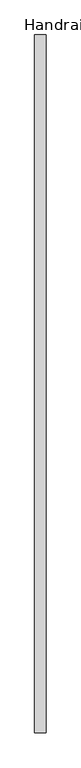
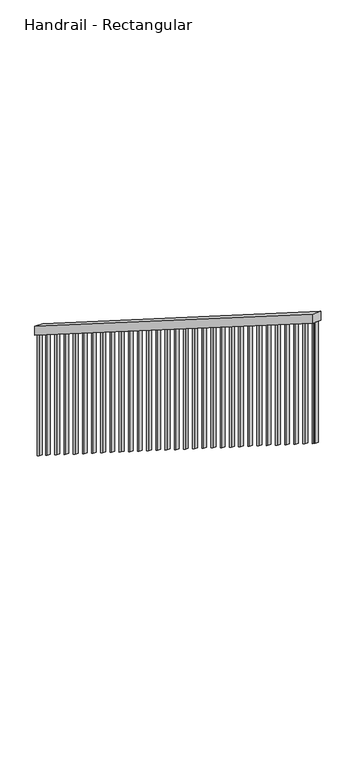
"""IFC4 building model written with IfcOpenShell, lengths in millimetres: railing geometry, Handrail - Rectangular."""

from ifc_helpers import new_model, si_unit, frame, origin, place, context, project, spatial, polyline, outline, extrude, source, transform, mapped, element, save


def handrail_rectangular_d835db19(model_context):
    return source(origin(), model_context, "Body", "SweptSolid", [
        extrude(outline(polyline([(29625.2325698, 914.4), (29625.2325698, 854.2661363), (26551.8305304, 2801.0532331), (26551.8305304, 2861.1870968), (29625.2325698, 914.4)])), frame((-8661.4851755, 0.0, 0.0), z_axis=(1.0, 0.0, 0.0), x_axis=(0.0, 1.0, 0.0)), (0.0, 0.0, 1.0), 50.8),
        extrude(outline(polyline([(26586.7575698, 2778.9293189), (26586.7575698, 1962.4070186), (26567.7075698, 1974.4738808), (26567.7075698, 2790.9961811), (26586.7575698, 2778.9293189)])), frame((-8645.6101755, 0.0, 0.0), z_axis=(1.0, 0.0, 0.0), x_axis=(0.0, 1.0, 0.0)), (0.0, 0.0, 1.0), 19.05),
        extrude(outline(polyline([(26688.3575698, 2714.5727634), (26688.3575698, 1898.0504631), (26669.3075698, 1910.1173253), (26669.3075698, 2726.6396256), (26688.3575698, 2714.5727634)])), frame((-8645.6101755, 0.0, 0.0), z_axis=(1.0, 0.0, 0.0), x_axis=(0.0, 1.0, 0.0)), (0.0, 0.0, 1.0), 19.05),
        extrude(outline(polyline([(26789.9575698, 2650.2162079), (26789.9575698, 1833.6939076), (26770.9075698, 1845.7607697), (26770.9075698, 2662.28307), (26789.9575698, 2650.2162079)])), frame((-8645.6101755, 0.0, 0.0), z_axis=(1.0, 0.0, 0.0), x_axis=(0.0, 1.0, 0.0)), (0.0, 0.0, 1.0), 19.05),
        extrude(outline(polyline([(26891.5575698, 2585.8596523), (26891.5575698, 1769.337352), (26872.5075698, 1781.4042142), (26872.5075698, 2597.9265145), (26891.5575698, 2585.8596523)])), frame((-8645.6101755, 0.0, 0.0), z_axis=(1.0, 0.0, 0.0), x_axis=(0.0, 1.0, 0.0)), (0.0, 0.0, 1.0), 19.05),
        extrude(outline(polyline([(26993.1575698, 2521.5030968), (26993.1575698, 1704.9807965), (26974.1075698, 1717.0476587), (26974.1075698, 2533.569959), (26993.1575698, 2521.5030968)])), frame((-8645.6101755, 0.0, 0.0), z_axis=(1.0, 0.0, 0.0), x_axis=(0.0, 1.0, 0.0)), (0.0, 0.0, 1.0), 19.05),
        extrude(outline(polyline([(27094.7575698, 2457.1465413), (27094.7575698, 1640.624241), (27075.7075698, 1652.6911031), (27075.7075698, 2469.2134034), (27094.7575698, 2457.1465413)])), frame((-8645.6101755, 0.0, 0.0), z_axis=(1.0, 0.0, 0.0), x_axis=(0.0, 1.0, 0.0)), (0.0, 0.0, 1.0), 19.05),
        extrude(outline(polyline([(27196.3575698, 2392.7899857), (27196.3575698, 1576.2676854), (27177.3075698, 1588.3345476), (27177.3075698, 2404.8568479), (27196.3575698, 2392.7899857)])), frame((-8645.6101755, 0.0, 0.0), z_axis=(1.0, 0.0, 0.0), x_axis=(0.0, 1.0, 0.0)), (0.0, 0.0, 1.0), 19.05),
        extrude(outline(polyline([(27297.9575698, 2328.4334302), (27297.9575698, 1511.9111299), (27278.9075698, 1523.9779921), (27278.9075698, 2340.5002924), (27297.9575698, 2328.4334302)])), frame((-8645.6101755, 0.0, 0.0), z_axis=(1.0, 0.0, 0.0), x_axis=(0.0, 1.0, 0.0)), (0.0, 0.0, 1.0), 19.05),
        extrude(outline(polyline([(27399.5575698, 2264.0768746), (27399.5575698, 1447.5545743), (27380.5075698, 1459.6214365), (27380.5075698, 2276.1437368), (27399.5575698, 2264.0768746)])), frame((-8645.6101755, 0.0, 0.0), z_axis=(1.0, 0.0, 0.0), x_axis=(0.0, 1.0, 0.0)), (0.0, 0.0, 1.0), 19.05),
        extrude(outline(polyline([(27501.1575698, 2199.7203191), (27501.1575698, 1383.1980188), (27482.1075698, 1395.264881), (27482.1075698, 2211.7871813), (27501.1575698, 2199.7203191)])), frame((-8645.6101755, 0.0, 0.0), z_axis=(1.0, 0.0, 0.0), x_axis=(0.0, 1.0, 0.0)), (0.0, 0.0, 1.0), 19.05),
        extrude(outline(polyline([(27602.7575698, 2135.3637636), (27602.7575698, 1318.8414633), (27583.7075698, 1330.9083254), (27583.7075698, 2147.4306257), (27602.7575698, 2135.3637636)])), frame((-8645.6101755, 0.0, 0.0), z_axis=(1.0, 0.0, 0.0), x_axis=(0.0, 1.0, 0.0)), (0.0, 0.0, 1.0), 19.05),
        extrude(outline(polyline([(27704.3575698, 2071.007208), (27704.3575698, 1254.4849077), (27685.3075698, 1266.5517699), (27685.3075698, 2083.0740702), (27704.3575698, 2071.007208)])), frame((-8645.6101755, 0.0, 0.0), z_axis=(1.0, 0.0, 0.0), x_axis=(0.0, 1.0, 0.0)), (0.0, 0.0, 1.0), 19.05),
        extrude(outline(polyline([(27805.9575698, 2006.6506525), (27805.9575698, 1190.1283522), (27786.9075698, 1202.1952144), (27786.9075698, 2018.7175147), (27805.9575698, 2006.6506525)])), frame((-8645.6101755, 0.0, 0.0), z_axis=(1.0, 0.0, 0.0), x_axis=(0.0, 1.0, 0.0)), (0.0, 0.0, 1.0), 19.05),
        extrude(outline(polyline([(27907.5575698, 1942.294097), (27907.5575698, 1125.7717967), (27888.5075698, 1137.8386588), (27888.5075698, 1954.3609591), (27907.5575698, 1942.294097)])), frame((-8645.6101755, 0.0, 0.0), z_axis=(1.0, 0.0, 0.0), x_axis=(0.0, 1.0, 0.0)), (0.0, 0.0, 1.0), 19.05),
        extrude(outline(polyline([(28009.1575698, 1877.9375414), (28009.1575698, 1061.4152411), (27990.1075698, 1073.4821033), (27990.1075698, 1890.0044036), (28009.1575698, 1877.9375414)])), frame((-8645.6101755, 0.0, 0.0), z_axis=(1.0, 0.0, 0.0), x_axis=(0.0, 1.0, 0.0)), (0.0, 0.0, 1.0), 19.05),
        extrude(outline(polyline([(28110.7575698, 1813.5809859), (28110.7575698, 997.0586856), (28091.7075698, 1009.1255478), (28091.7075698, 1825.6478481), (28110.7575698, 1813.5809859)])), frame((-8645.6101755, 0.0, 0.0), z_axis=(1.0, 0.0, 0.0), x_axis=(0.0, 1.0, 0.0)), (0.0, 0.0, 1.0), 19.05),
        extrude(outline(polyline([(28212.3575698, 1749.2244304), (28212.3575698, 932.7021301), (28193.3075698, 944.7689922), (28193.3075698, 1761.2912925), (28212.3575698, 1749.2244304)])), frame((-8645.6101755, 0.0, 0.0), z_axis=(1.0, 0.0, 0.0), x_axis=(0.0, 1.0, 0.0)), (0.0, 0.0, 1.0), 19.05),
        extrude(outline(polyline([(28313.9575698, 1684.8678748), (28313.9575698, 868.3455745), (28294.9075698, 880.4124367), (28294.9075698, 1696.934737), (28313.9575698, 1684.8678748)])), frame((-8645.6101755, 0.0, 0.0), z_axis=(1.0, 0.0, 0.0), x_axis=(0.0, 1.0, 0.0)), (0.0, 0.0, 1.0), 19.05),
        extrude(outline(polyline([(28415.5575698, 1620.5113193), (28415.5575698, 803.989019), (28396.5075698, 816.0558812), (28396.5075698, 1632.5781815), (28415.5575698, 1620.5113193)])), frame((-8645.6101755, 0.0, 0.0), z_axis=(1.0, 0.0, 0.0), x_axis=(0.0, 1.0, 0.0)), (0.0, 0.0, 1.0), 19.05),
        extrude(outline(polyline([(28517.1575698, 1556.1547638), (28517.1575698, 739.6324635), (28498.1075698, 751.6993256), (28498.1075698, 1568.2216259), (28517.1575698, 1556.1547638)])), frame((-8645.6101755, 0.0, 0.0), z_axis=(1.0, 0.0, 0.0), x_axis=(0.0, 1.0, 0.0)), (0.0, 0.0, 1.0), 19.05),
        extrude(outline(polyline([(28618.7575698, 1491.7982082), (28618.7575698, 675.2759079), (28599.7075698, 687.3427701), (28599.7075698, 1503.8650704), (28618.7575698, 1491.7982082)])), frame((-8645.6101755, 0.0, 0.0), z_axis=(1.0, 0.0, 0.0), x_axis=(0.0, 1.0, 0.0)), (0.0, 0.0, 1.0), 19.05),
        extrude(outline(polyline([(28720.3575698, 1427.4416527), (28720.3575698, 610.9193524), (28701.3075698, 622.9862146), (28701.3075698, 1439.5085149), (28720.3575698, 1427.4416527)])), frame((-8645.6101755, 0.0, 0.0), z_axis=(1.0, 0.0, 0.0), x_axis=(0.0, 1.0, 0.0)), (0.0, 0.0, 1.0), 19.05),
        extrude(outline(polyline([(28821.9575698, 1363.0850972), (28821.9575698, 546.5627969), (28802.9075698, 558.629659), (28802.9075698, 1375.1519593), (28821.9575698, 1363.0850972)])), frame((-8645.6101755, 0.0, 0.0), z_axis=(1.0, 0.0, 0.0), x_axis=(0.0, 1.0, 0.0)), (0.0, 0.0, 1.0), 19.05),
        extrude(outline(polyline([(28923.5575698, 1298.7285416), (28923.5575698, 482.2062413), (28904.5075698, 494.2731035), (28904.5075698, 1310.7954038), (28923.5575698, 1298.7285416)])), frame((-8645.6101755, 0.0, 0.0), z_axis=(1.0, 0.0, 0.0), x_axis=(0.0, 1.0, 0.0)), (0.0, 0.0, 1.0), 19.05),
        extrude(outline(polyline([(29025.1575698, 1234.3719861), (29025.1575698, 417.8496858), (29006.1075698, 429.916548), (29006.1075698, 1246.4388483), (29025.1575698, 1234.3719861)])), frame((-8645.6101755, 0.0, 0.0), z_axis=(1.0, 0.0, 0.0), x_axis=(0.0, 1.0, 0.0)), (0.0, 0.0, 1.0), 19.05),
        extrude(outline(polyline([(29126.7575698, 1170.0154306), (29126.7575698, 353.4931303), (29107.7075698, 365.5599924), (29107.7075698, 1182.0822927), (29126.7575698, 1170.0154306)])), frame((-8645.6101755, 0.0, 0.0), z_axis=(1.0, 0.0, 0.0), x_axis=(0.0, 1.0, 0.0)), (0.0, 0.0, 1.0), 19.05),
        extrude(outline(polyline([(29228.3575698, 1105.658875), (29228.3575698, 289.1365747), (29209.3075698, 301.2034369), (29209.3075698, 1117.7257372), (29228.3575698, 1105.658875)])), frame((-8645.6101755, 0.0, 0.0), z_axis=(1.0, 0.0, 0.0), x_axis=(0.0, 1.0, 0.0)), (0.0, 0.0, 1.0), 19.05),
        extrude(outline(polyline([(29329.9575698, 1041.3023195), (29329.9575698, 224.7800192), (29310.9075698, 236.8468814), (29310.9075698, 1053.3691817), (29329.9575698, 1041.3023195)])), frame((-8645.6101755, 0.0, 0.0), z_axis=(1.0, 0.0, 0.0), x_axis=(0.0, 1.0, 0.0)), (0.0, 0.0, 1.0), 19.05),
        extrude(outline(polyline([(29431.5575698, 976.945764), (29431.5575698, 160.4234637), (29412.5075698, 172.4903258), (29412.5075698, 989.0126261), (29431.5575698, 976.945764)])), frame((-8645.6101755, 0.0, 0.0), z_axis=(1.0, 0.0, 0.0), x_axis=(0.0, 1.0, 0.0)), (0.0, 0.0, 1.0), 19.05),
        extrude(outline(polyline([(29533.1575698, 912.5892084), (29533.1575698, 96.0669081), (29514.1075698, 108.1337703), (29514.1075698, 924.6560706), (29533.1575698, 912.5892084)])), frame((-8645.6101755, 0.0, 0.0), z_axis=(1.0, 0.0, 0.0), x_axis=(0.0, 1.0, 0.0)), (0.0, 0.0, 1.0), 19.05),
        extrude(outline(polyline([(26570.8805304, 2788.9863226), (26570.8805304, 1972.4640223), (26551.8305304, 1984.5308845), (26551.8305304, 2801.0531848), (26570.8805304, 2788.9863226)])), frame((-8645.6101755, 0.0, 0.0), z_axis=(1.0, 0.0, 0.0), x_axis=(0.0, 1.0, 0.0)), (0.0, 0.0, 1.0), 19.05),
        extrude(outline(polyline([(29625.2325698, 854.26608), (29625.2325698, 37.7437797), (29606.1825698, 49.8106418), (29606.1825698, 866.3329421), (29625.2325698, 854.26608)])), frame((-8645.6101755, 0.0, 0.0), z_axis=(1.0, 0.0, 0.0), x_axis=(0.0, 1.0, 0.0)), (0.0, 0.0, 1.0), 19.05),
    ])


if __name__ == "__main__":
    model = new_model("IFC4")
    model_context = context("Model", 3, world=origin())
    ifc_project = project(units=[si_unit("LENGTHUNIT", "METRE", prefix="MILLI")], contexts=[model_context])
    site = spatial("IfcSite", under=ifc_project)
    building = spatial("IfcBuilding", under=site)
    placement = place(None, origin())
    handrail_rectangular_shape = handrail_rectangular_d835db19(model_context)
    element("IfcRailing", 1, ObjectType="Handrail - Rectangular", at=placement, inside=building, context=model_context, shape_type="MappedRepresentation", body=[
        mapped(handrail_rectangular_shape, transform((0.0, 0.0, 0.0), x_axis=(1.0, 0.0, 0.0), y_axis=(0.0, 1.0, 0.0), z_axis=(0.0, 0.0, 1.0))),
    ])
    save(model, "model.ifc")
